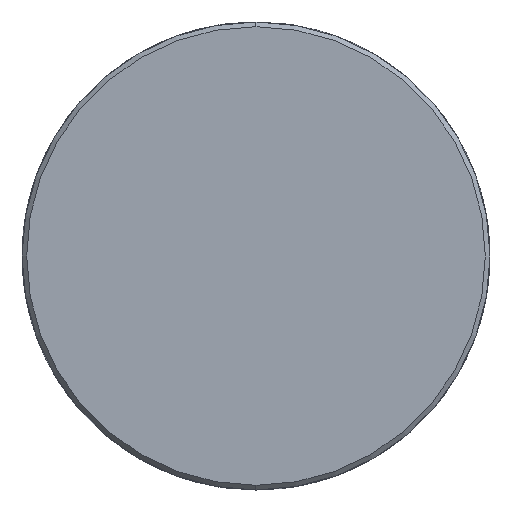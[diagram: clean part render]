
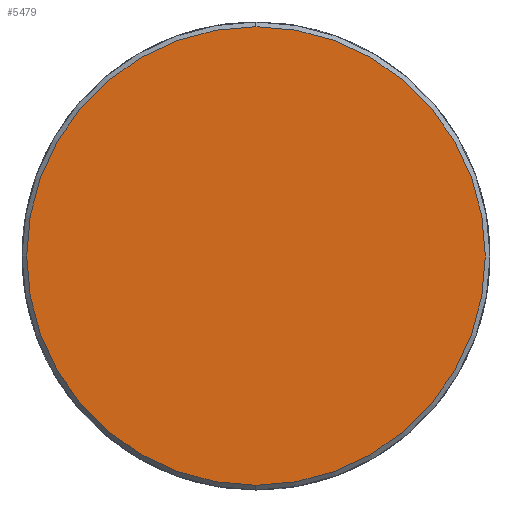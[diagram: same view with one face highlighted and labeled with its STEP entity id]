
A CAD part, left-side view. The second image highlights one B-rep face of the part: STEP entity #5479.
In plain terms, the highlighted planar face has unit normal (-1, 0, 0).
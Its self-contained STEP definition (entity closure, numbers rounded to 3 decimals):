
#435 = EDGE_CURVE ( 'NONE', #1874, #8598, #862, .T. ) ;
#714 = EDGE_CURVE ( 'NONE', #8598, #1874, #1471, .T. ) ;
#862 = CIRCLE ( 'NONE', #3201, 24.5 ) ;
#879 = ORIENTED_EDGE ( 'NONE', *, *, #435, .F. ) ;
#1224 = CARTESIAN_POINT ( 'NONE',  ( 0., 0., -24.5 ) ) ;
#1471 = CIRCLE ( 'NONE', #4234, 24.5 ) ;
#1874 = VERTEX_POINT ( 'NONE', #1224 ) ;
#2889 = CARTESIAN_POINT ( 'NONE',  ( 0., 0., 24.5 ) ) ;
#3201 = AXIS2_PLACEMENT_3D ( 'NONE', #6670, #6668, #6659 ) ;
#4150 = DIRECTION ( 'NONE',  ( 0., 0., 1. ) ) ;
#4151 = DIRECTION ( 'NONE',  ( -1., 0., 0. ) ) ;
#4163 = CARTESIAN_POINT ( 'NONE',  ( 0., 0., 0. ) ) ;
#4222 = PLANE ( 'NONE',  #4563 ) ;
#4234 = AXIS2_PLACEMENT_3D ( 'NONE', #6460, #6449, #6448 ) ;
#4563 = AXIS2_PLACEMENT_3D ( 'NONE', #4163, #4151, #4150 ) ;
#4953 = EDGE_LOOP ( 'NONE', ( #879, #6665 ) ) ;
#5479 = ADVANCED_FACE ( 'NONE', ( #8637 ), #4222, .T. ) ;
#6448 = DIRECTION ( 'NONE',  ( 0., 0., -1. ) ) ;
#6449 = DIRECTION ( 'NONE',  ( 1., 0., 0. ) ) ;
#6460 = CARTESIAN_POINT ( 'NONE',  ( 0., 0., 0. ) ) ;
#6659 = DIRECTION ( 'NONE',  ( 0., 0., -1. ) ) ;
#6665 = ORIENTED_EDGE ( 'NONE', *, *, #714, .F. ) ;
#6668 = DIRECTION ( 'NONE',  ( 1., 0., 0. ) ) ;
#6670 = CARTESIAN_POINT ( 'NONE',  ( 0., 0., 0. ) ) ;
#8598 = VERTEX_POINT ( 'NONE', #2889 ) ;
#8637 = FACE_OUTER_BOUND ( 'NONE', #4953, .T. ) ;
